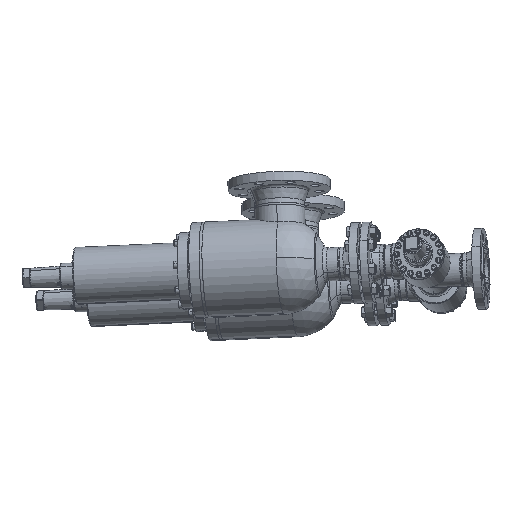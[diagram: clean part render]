
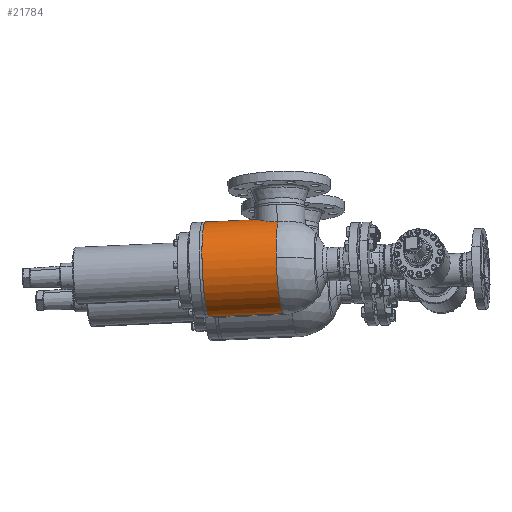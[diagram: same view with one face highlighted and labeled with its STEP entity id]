
A CAD part, top view. The second image highlights one B-rep face of the part: STEP entity #21784.
In plain terms, the highlighted cylindrical face has radius 109.55 mm (diameter 219.1 mm), a partial arc.
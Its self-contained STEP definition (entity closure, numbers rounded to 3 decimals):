
#16763 = CARTESIAN_POINT ( 'NONE',  ( 109.55, -201., 0. ) ) ;
#17863 = CIRCLE ( 'NONE', #17864, 109.55 ) ;
#17864 = AXIS2_PLACEMENT_3D ( 'NONE', #17865, #17866, #17867 ) ;
#17865 = CARTESIAN_POINT ( 'NONE',  ( 0., -201., 0. ) ) ;
#17866 = DIRECTION ( 'NONE',  ( 0., 1., 0. ) ) ;
#17867 = DIRECTION ( 'NONE',  ( 0., 0., 1. ) ) ;
#34481 = CARTESIAN_POINT ( 'NONE',  ( 0., -201., 109.55 ) ) ;
#34611 = VERTEX_POINT ( 'NONE', #34481 ) ;
#2236 = ORIENTED_EDGE ( 'NONE', *, *, #26309, .T. ) ;
#51534 = CARTESIAN_POINT ( 'NONE',  ( 0., -30.125, -109.55 ) ) ;
#2499 = CARTESIAN_POINT ( 'NONE',  ( 0., -145., -109.55 ) ) ;
#35303 = EDGE_CURVE ( 'NONE', #34611, #37999, #35947, .T. ) ;
#35947 = LINE ( 'NONE', #35948, #35949 ) ;
#35948 = CARTESIAN_POINT ( 'NONE',  ( 0., 0., 109.55 ) ) ;
#35949 = VECTOR ( 'NONE', #35950, 1000. ) ;
#35950 = DIRECTION ( 'NONE',  ( 0., 1., 0. ) ) ;
#52612 = LINE ( 'NONE', #52651, #52652 ) ;
#52651 = CARTESIAN_POINT ( 'NONE',  ( 0., 0., -109.55 ) ) ;
#52652 = VECTOR ( 'NONE', #52653, 1000. ) ;
#52653 = DIRECTION ( 'NONE',  ( 0., 1., 0. ) ) ;
#36430 = ORIENTED_EDGE ( 'NONE', *, *, #35303, .F. ) ;
#20120 = CARTESIAN_POINT ( 'NONE',  ( 54., -199., -95.316 ) ) ;
#3802 = EDGE_CURVE ( 'NONE', #34611, #25631, #54807, .T. ) ;
#21050 = EDGE_LOOP ( 'NONE', ( #47143, #45857, #43122, #39775, #36430, #4914, #2236 ) ) ;
#4676 = B_SPLINE_CURVE_WITH_KNOTS ( 'NONE', 3,
 ( #4677, #4678, #4679, #4680, #4681, #4682, #4683, #4684, #4685, #4721, #4722, #4723, #4724, #4725, #4726, #4727, #4728, #4729, #4730, #4731, #4732, #4733, #4734, #4735, #4736, #4773, #4774, #4775, #4776, #4777, #4778, #4779, #4780, #4781, #4782, #4783, #4784, #4785 ),
 .UNSPECIFIED., .F., .F.,
 ( 4, 2, 2, 2, 2, 2, 2, 2, 2, 2, 2, 2, 2, 2, 2, 2, 2, 2, 4 ),
 ( 0.257, 0.263, 0.265, 0.268, 0.279, 0.284, 0.29, 0.295, 0.298, 0.3, 0.311, 0.316, 0.319, 0.322, 0.332, 0.335, 0.338, 0.34, 0.343 ),
 .UNSPECIFIED. ) ;
#4677 = CARTESIAN_POINT ( 'NONE',  ( 54., -199., -95.316 ) ) ;
#4678 = CARTESIAN_POINT ( 'NONE',  ( 54., -197.216, -95.316 ) ) ;
#4679 = CARTESIAN_POINT ( 'NONE',  ( 53.912, -195.431, -95.366 ) ) ;
#4680 = CARTESIAN_POINT ( 'NONE',  ( 53.645, -192.752, -95.517 ) ) ;
#4681 = CARTESIAN_POINT ( 'NONE',  ( 53.533, -191.859, -95.579 ) ) ;
#4682 = CARTESIAN_POINT ( 'NONE',  ( 53.264, -190.072, -95.729 ) ) ;
#4683 = CARTESIAN_POINT ( 'NONE',  ( 53.108, -189.184, -95.816 ) ) ;
#4684 = CARTESIAN_POINT ( 'NONE',  ( 52.221, -184.795, -96.306 ) ) ;
#4685 = CARTESIAN_POINT ( 'NONE',  ( 51.178, -181.414, -96.873 ) ) ;
#4721 = CARTESIAN_POINT ( 'NONE',  ( 49.132, -176.523, -97.918 ) ) ;
#4722 = CARTESIAN_POINT ( 'NONE',  ( 48.365, -174.918, -98.3 ) ) ;
#4723 = CARTESIAN_POINT ( 'NONE',  ( 46.698, -171.827, -99.103 ) ) ;
#4724 = CARTESIAN_POINT ( 'NONE',  ( 45.796, -170.334, -99.524 ) ) ;
#4725 = CARTESIAN_POINT ( 'NONE',  ( 43.857, -167.448, -100.394 ) ) ;
#4726 = CARTESIAN_POINT ( 'NONE',  ( 42.821, -166.054, -100.842 ) ) ;
#4727 = CARTESIAN_POINT ( 'NONE',  ( 41.163, -164.038, -101.524 ) ) ;
#4728 = CARTESIAN_POINT ( 'NONE',  ( 40.593, -163.377, -101.754 ) ) ;
#4729 = CARTESIAN_POINT ( 'NONE',  ( 39.418, -162.082, -102.214 ) ) ;
#4730 = CARTESIAN_POINT ( 'NONE',  ( 38.814, -161.447, -102.446 ) ) ;
#4731 = CARTESIAN_POINT ( 'NONE',  ( 35.733, -158.364, -103.592 ) ) ;
#4732 = CARTESIAN_POINT ( 'NONE',  ( 33.06, -156.161, -104.486 ) ) ;
#4733 = CARTESIAN_POINT ( 'NONE',  ( 28.728, -153.243, -105.727 ) ) ;
#4734 = CARTESIAN_POINT ( 'NONE',  ( 27.23, -152.335, -106.124 ) ) ;
#4735 = CARTESIAN_POINT ( 'NONE',  ( 24.896, -151.073, -106.687 ) ) ;
#4736 = CARTESIAN_POINT ( 'NONE',  ( 24.103, -150.67, -106.869 ) ) ;
#4773 = CARTESIAN_POINT ( 'NONE',  ( 22.507, -149.906, -107.216 ) ) ;
#4774 = CARTESIAN_POINT ( 'NONE',  ( 21.701, -149.545, -107.382 ) ) ;
#4775 = CARTESIAN_POINT ( 'NONE',  ( 17.636, -147.839, -108.172 ) ) ;
#4776 = CARTESIAN_POINT ( 'NONE',  ( 14.264, -146.796, -108.674 ) ) ;
#4777 = CARTESIAN_POINT ( 'NONE',  ( 9.89, -145.906, -109.106 ) ) ;
#4778 = CARTESIAN_POINT ( 'NONE',  ( 9.007, -145.749, -109.183 ) ) ;
#4779 = CARTESIAN_POINT ( 'NONE',  ( 7.226, -145.478, -109.315 ) ) ;
#4780 = CARTESIAN_POINT ( 'NONE',  ( 6.325, -145.364, -109.371 ) ) ;
#4781 = CARTESIAN_POINT ( 'NONE',  ( 4.524, -145.182, -109.46 ) ) ;
#4782 = CARTESIAN_POINT ( 'NONE',  ( 3.622, -145.114, -109.494 ) ) ;
#4783 = CARTESIAN_POINT ( 'NONE',  ( 1.814, -145.023, -109.539 ) ) ;
#4784 = CARTESIAN_POINT ( 'NONE',  ( 0.906, -145., -109.55 ) ) ;
#4785 = CARTESIAN_POINT ( 'NONE',  ( 0., -145., -109.55 ) ) ;
#4914 = ORIENTED_EDGE ( 'NONE', *, *, #3802, .T. ) ;
#37999 = VERTEX_POINT ( 'NONE', #45804 ) ;
#21784 = ADVANCED_FACE ( 'NONE', ( #31793 ), #31794, .T. ) ;
#54807 = CIRCLE ( 'NONE', #54808, 109.55 ) ;
#54808 = AXIS2_PLACEMENT_3D ( 'NONE', #54809, #54810, #54811 ) ;
#54809 = CARTESIAN_POINT ( 'NONE',  ( 0., -201., 0. ) ) ;
#54810 = DIRECTION ( 'NONE',  ( 0., 1., 0. ) ) ;
#54811 = DIRECTION ( 'NONE',  ( 0., 0., 1. ) ) ;
#38663 = EDGE_CURVE ( 'NONE', #37999, #41342, #46186, .T. ) ;
#39775 = ORIENTED_EDGE ( 'NONE', *, *, #38663, .F. ) ;
#41342 = VERTEX_POINT ( 'NONE', #51534 ) ;
#25631 = VERTEX_POINT ( 'NONE', #16763 ) ;
#42013 = EDGE_CURVE ( 'NONE', #44583, #41342, #52612, .T. ) ;
#26309 = EDGE_CURVE ( 'NONE', #25631, #10844, #17863, .T. ) ;
#43122 = ORIENTED_EDGE ( 'NONE', *, *, #42013, .T. ) ;
#10844 = VERTEX_POINT ( 'NONE', #13135 ) ;
#11506 = EDGE_CURVE ( 'NONE', #10844, #14212, #14601, .T. ) ;
#44583 = VERTEX_POINT ( 'NONE', #2499 ) ;
#45067 = EDGE_CURVE ( 'NONE', #14212, #44583, #4676, .T. ) ;
#45804 = CARTESIAN_POINT ( 'NONE',  ( 0., -30.125, 109.55 ) ) ;
#45857 = ORIENTED_EDGE ( 'NONE', *, *, #45067, .T. ) ;
#13135 = CARTESIAN_POINT ( 'NONE',  ( 53.963, -201., -95.337 ) ) ;
#46186 = CIRCLE ( 'NONE', #46187, 109.55 ) ;
#46187 = AXIS2_PLACEMENT_3D ( 'NONE', #46188, #46226, #46227 ) ;
#46188 = CARTESIAN_POINT ( 'NONE',  ( 0., -30.125, 0. ) ) ;
#46226 = DIRECTION ( 'NONE',  ( 0., 1., 0. ) ) ;
#46227 = DIRECTION ( 'NONE',  ( 0., 0., 1. ) ) ;
#14212 = VERTEX_POINT ( 'NONE', #20120 ) ;
#47143 = ORIENTED_EDGE ( 'NONE', *, *, #11506, .T. ) ;
#14601 = B_SPLINE_CURVE_WITH_KNOTS ( 'NONE', 3,
 ( #14602, #14603, #14604, #14605, #14606 ),
 .UNSPECIFIED., .F., .F.,
 ( 4, 1, 4 ),
 ( 0.255, 0.256, 0.257 ),
 .UNSPECIFIED. ) ;
#14602 = CARTESIAN_POINT ( 'NONE',  ( 53.963, -201., -95.337 ) ) ;
#14603 = CARTESIAN_POINT ( 'NONE',  ( 53.975, -200.667, -95.33 ) ) ;
#14604 = CARTESIAN_POINT ( 'NONE',  ( 53.994, -200., -95.32 ) ) ;
#14605 = CARTESIAN_POINT ( 'NONE',  ( 54., -199.333, -95.316 ) ) ;
#14606 = CARTESIAN_POINT ( 'NONE',  ( 54., -199., -95.316 ) ) ;
#31793 = FACE_OUTER_BOUND ( 'NONE', #21050, .T. ) ;
#31794 = CYLINDRICAL_SURFACE ( 'NONE', #31795, 109.55 ) ;
#31795 = AXIS2_PLACEMENT_3D ( 'NONE', #31796, #31797, #31798 ) ;
#31796 = CARTESIAN_POINT ( 'NONE',  ( 0., 0., 0. ) ) ;
#31797 = DIRECTION ( 'NONE',  ( 0., 1., 0. ) ) ;
#31798 = DIRECTION ( 'NONE',  ( 0., 0., 1. ) ) ;
